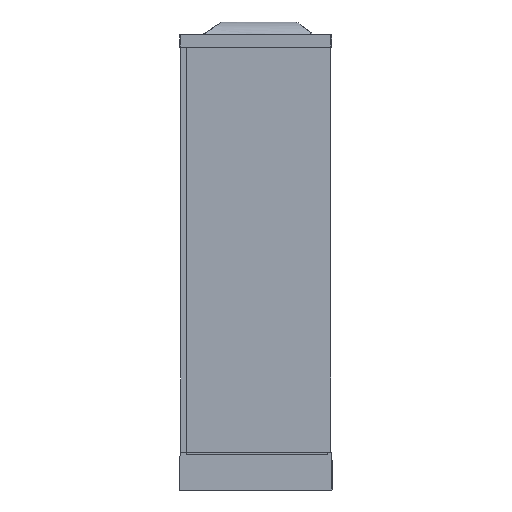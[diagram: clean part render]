
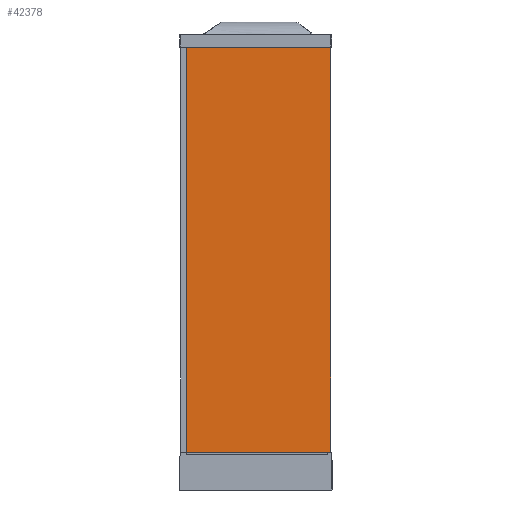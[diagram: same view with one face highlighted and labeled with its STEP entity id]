
A CAD part, left-side view. The second image highlights one B-rep face of the part: STEP entity #42378.
In plain terms, the highlighted planar face has unit normal (-1, 0, 0).
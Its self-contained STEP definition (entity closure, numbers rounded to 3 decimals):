
#42159=CARTESIAN_POINT('',(4.296,-31.426,2063.06));
#42160=VERTEX_POINT('',#42159);
#42167=CARTESIAN_POINT('',(4.296,-686.417,2063.06));
#42168=VERTEX_POINT('',#42167);
#42169=CARTESIAN_POINT('',(4.296,-31.426,2063.06));
#42170=DIRECTION('',(0.0,-1.0,0.0));
#42171=VECTOR('',#42170,654.991);
#42172=LINE('',#42169,#42171);
#42173=EDGE_CURVE('',#42160,#42168,#42172,.T.);
#42291=CARTESIAN_POINT('',(4.296,-686.417,163.06));
#42292=VERTEX_POINT('',#42291);
#42299=CARTESIAN_POINT('',(4.296,-31.426,163.06));
#42300=VERTEX_POINT('',#42299);
#42301=CARTESIAN_POINT('',(4.296,-31.426,163.06));
#42302=DIRECTION('',(0.0,-1.0,0.0));
#42303=VECTOR('',#42302,654.991);
#42304=LINE('',#42301,#42303);
#42305=EDGE_CURVE('',#42300,#42292,#42304,.T.);
#42325=CARTESIAN_POINT('',(4.296,-700.541,162.936));
#42326=DIRECTION('',(1.0,0.0,0.0));
#42327=DIRECTION('',(0.0,1.0,0.0));
#42328=AXIS2_PLACEMENT_3D('',#42325,#42326,#42327);
#42329=PLANE('',#42328);
#42330=ORIENTED_EDGE('',*,*,#42305,.T.);
#42331=CARTESIAN_POINT('',(4.296,-686.417,176.057));
#42332=VERTEX_POINT('',#42331);
#42333=CARTESIAN_POINT('',(4.296,-686.417,163.06));
#42334=DIRECTION('',(0.0,0.0,1.0));
#42335=VECTOR('',#42334,12.998);
#42336=LINE('',#42333,#42335);
#42337=EDGE_CURVE('',#42292,#42332,#42336,.T.);
#42338=ORIENTED_EDGE('',*,*,#42337,.T.);
#42339=CARTESIAN_POINT('',(4.296,-700.417,176.057));
#42340=VERTEX_POINT('',#42339);
#42341=CARTESIAN_POINT('',(4.296,-700.417,176.057));
#42342=DIRECTION('',(0.0,1.0,0.0));
#42343=VECTOR('',#42342,14.);
#42344=LINE('',#42341,#42343);
#42345=EDGE_CURVE('',#42340,#42332,#42344,.T.);
#42346=ORIENTED_EDGE('',*,*,#42345,.F.);
#42347=CARTESIAN_POINT('',(4.296,-700.417,2050.057));
#42348=VERTEX_POINT('',#42347);
#42349=CARTESIAN_POINT('',(4.296,-700.417,2050.057));
#42350=DIRECTION('',(0.0,0.0,-1.0));
#42351=VECTOR('',#42350,1874.0);
#42352=LINE('',#42349,#42351);
#42353=EDGE_CURVE('',#42348,#42340,#42352,.T.);
#42354=ORIENTED_EDGE('',*,*,#42353,.F.);
#42355=CARTESIAN_POINT('',(4.296,-686.417,2050.057));
#42356=VERTEX_POINT('',#42355);
#42357=CARTESIAN_POINT('',(4.296,-700.417,2050.057));
#42358=DIRECTION('',(0.0,1.0,0.0));
#42359=VECTOR('',#42358,14.);
#42360=LINE('',#42357,#42359);
#42361=EDGE_CURVE('',#42348,#42356,#42360,.T.);
#42362=ORIENTED_EDGE('',*,*,#42361,.T.);
#42363=CARTESIAN_POINT('',(4.296,-686.417,2063.06));
#42364=DIRECTION('',(0.0,0.0,-1.0));
#42365=VECTOR('',#42364,13.002);
#42366=LINE('',#42363,#42365);
#42367=EDGE_CURVE('',#42168,#42356,#42366,.T.);
#42368=ORIENTED_EDGE('',*,*,#42367,.F.);
#42369=ORIENTED_EDGE('',*,*,#42173,.F.);
#42370=CARTESIAN_POINT('',(4.296,-31.426,163.06));
#42371=DIRECTION('',(0.0,0.0,1.0));
#42372=VECTOR('',#42371,1900.0);
#42373=LINE('',#42370,#42372);
#42374=EDGE_CURVE('',#42300,#42160,#42373,.T.);
#42375=ORIENTED_EDGE('',*,*,#42374,.F.);
#42376=EDGE_LOOP('',(#42330,#42338,#42346,#42354,#42362,#42368,#42369,#42375));
#42377=FACE_OUTER_BOUND('',#42376,.T.);
#42378=ADVANCED_FACE('',(#42377),#42329,.F.);
